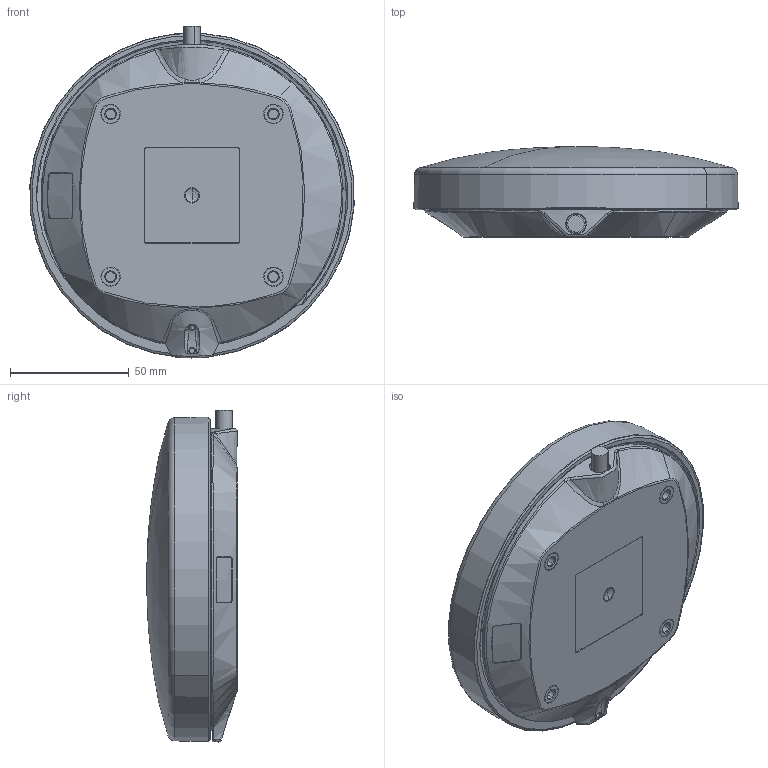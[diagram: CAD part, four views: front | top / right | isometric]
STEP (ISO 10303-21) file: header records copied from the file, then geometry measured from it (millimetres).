
FILE_DESCRIPTION (( 'STEP AP214' ), '1' );
FILE_NAME ('Tigershark_Assembly.STEP', '2024-06-06T18:55:33', ( '' ), ( '' ), 'SwSTEP 2.0', 'SolidWorks 2024', '' );
FILE_SCHEMA (( 'AUTOMOTIVE_DESIGN' ));
Length unit declared in the file: millimetre
Products named in the file (7): M5 insert tigershark; 7mm cable stub; Tigershark_Assembly; top 13.05.14; light guide 13.05.14; M3 insert; base with m3 inserts marks 25.06.14
Assembly tree (12 placements, depth 2):
  Tigershark_Assembly
    base with m3 inserts marks 25.06.14
    light guide 13.05.14
    top 13.05.14
    M3 insert  x4
    M5 insert tigershark  x4
    7mm cable stub
Bounding box: 136.69 x 38.15 x 139.95 mm (x, y, z)
Volume: 146878.7 mm3; surface area: 100671.9 mm2
Topology: 12 solids, 12 shells, 3303 faces, 7620 edges, 4201 vertices
Faces by surface type: bspline 1232, cylinder 956, plane 673, sphere 212, torus 148, cone 82
Entity records: 140027 total; most frequent: CARTESIAN_POINT 78018, ORIENTED_EDGE 14648, DIRECTION 10309, EDGE_CURVE 7324, AXIS2_PLACEMENT_3D 4230, VERTEX_POINT 4136, EDGE_LOOP 3304, B_SPLINE_CURVE_WITH_KNOTS 3261
